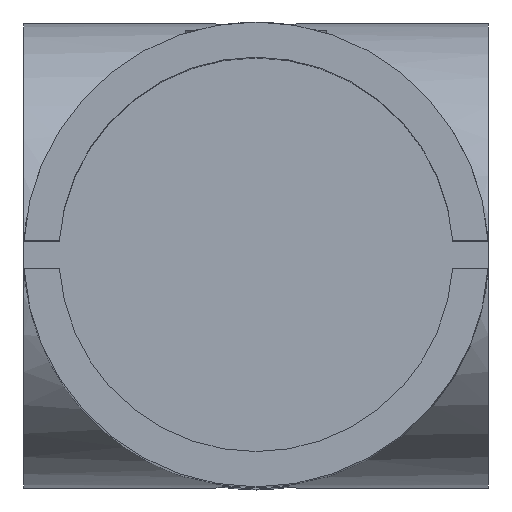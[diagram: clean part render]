
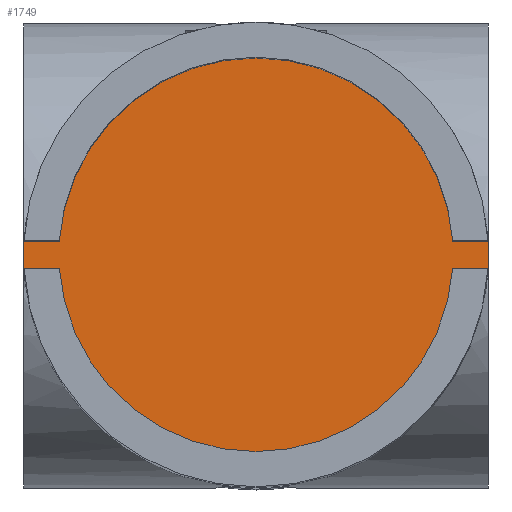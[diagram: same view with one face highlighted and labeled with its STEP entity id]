
A CAD part, top view. The second image highlights one B-rep face of the part: STEP entity #1749.
In plain terms, the highlighted planar face has unit normal (0, 0, 1).
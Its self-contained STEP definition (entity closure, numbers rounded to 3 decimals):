
#8 = ORIENTED_EDGE ( 'NONE', *, *, #2439, .F. ) ;
#12 = DIRECTION ( 'NONE',  ( 0., 0., -1. ) ) ;
#103 = VERTEX_POINT ( 'NONE', #760 ) ;
#280 = CIRCLE ( 'NONE', #2444, 16.5 ) ;
#323 = CARTESIAN_POINT ( 'NONE',  ( 0., 0., 35. ) ) ;
#336 = EDGE_CURVE ( 'NONE', #2262, #511, #901, .T. ) ;
#341 = CARTESIAN_POINT ( 'NONE',  ( 16.5, 0., 35. ) ) ;
#344 = FACE_OUTER_BOUND ( 'NONE', #2990, .T. ) ;
#349 = ORIENTED_EDGE ( 'NONE', *, *, #1281, .T. ) ;
#350 = AXIS2_PLACEMENT_3D ( 'NONE', #1061, #1553, #624 ) ;
#454 = CARTESIAN_POINT ( 'NONE',  ( 16.47, 1., 35. ) ) ;
#492 = CARTESIAN_POINT ( 'NONE',  ( 16.47, -1., 35. ) ) ;
#511 = VERTEX_POINT ( 'NONE', #454 ) ;
#548 = EDGE_CURVE ( 'NONE', #2919, #1095, #1885, .T. ) ;
#590 = CIRCLE ( 'NONE', #2722, 16.5 ) ;
#624 = DIRECTION ( 'NONE',  ( -1., 0., 0. ) ) ;
#627 = CIRCLE ( 'NONE', #783, 14. ) ;
#678 = CARTESIAN_POINT ( 'NONE',  ( -16.5, -1., 35. ) ) ;
#713 = DIRECTION ( 'NONE',  ( -1., 0., 0. ) ) ;
#747 = CARTESIAN_POINT ( 'NONE',  ( -16.5, 1., 35. ) ) ;
#760 = CARTESIAN_POINT ( 'NONE',  ( -16.47, 1., 35. ) ) ;
#778 = VERTEX_POINT ( 'NONE', #492 ) ;
#783 = AXIS2_PLACEMENT_3D ( 'NONE', #2120, #12, #1445 ) ;
#787 = EDGE_CURVE ( 'NONE', #103, #1457, #954, .T. ) ;
#901 = CIRCLE ( 'NONE', #350, 16.5 ) ;
#923 = DIRECTION ( 'NONE',  ( -1., 0., 0. ) ) ;
#954 = LINE ( 'NONE', #747, #2234 ) ;
#1060 = ORIENTED_EDGE ( 'NONE', *, *, #1180, .F. ) ;
#1061 = CARTESIAN_POINT ( 'NONE',  ( 0., 0., 35. ) ) ;
#1077 = EDGE_CURVE ( 'NONE', #103, #2097, #280, .T. ) ;
#1095 = VERTEX_POINT ( 'NONE', #1824 ) ;
#1109 = DIRECTION ( 'NONE',  ( -1., 0., 0. ) ) ;
#1117 = DIRECTION ( 'NONE',  ( -1., 0., 0. ) ) ;
#1143 = EDGE_CURVE ( 'NONE', #2124, #778, #1458, .T. ) ;
#1180 = EDGE_CURVE ( 'NONE', #1457, #2293, #627, .T. ) ;
#1190 = CARTESIAN_POINT ( 'NONE',  ( 13.964, -1., 35. ) ) ;
#1197 = CARTESIAN_POINT ( 'NONE',  ( 0., 0., 35. ) ) ;
#1254 = DIRECTION ( 'NONE',  ( 0., 0., 1. ) ) ;
#1281 = EDGE_CURVE ( 'NONE', #2097, #2919, #1508, .T. ) ;
#1303 = LINE ( 'NONE', #2703, #2041 ) ;
#1336 = CARTESIAN_POINT ( 'NONE',  ( -16.47, -1., 35. ) ) ;
#1338 = VECTOR ( 'NONE', #1938, 1000. ) ;
#1356 = PLANE ( 'NONE',  #2793 ) ;
#1361 = ORIENTED_EDGE ( 'NONE', *, *, #1077, .T. ) ;
#1412 = VECTOR ( 'NONE', #1413, 1000. ) ;
#1413 = DIRECTION ( 'NONE',  ( 1., 0., 0. ) ) ;
#1445 = DIRECTION ( 'NONE',  ( -1., 0., 0. ) ) ;
#1457 = VERTEX_POINT ( 'NONE', #2609 ) ;
#1458 = LINE ( 'NONE', #678, #1338 ) ;
#1464 = DIRECTION ( 'NONE',  ( 0., 0., -1. ) ) ;
#1508 = CIRCLE ( 'NONE', #2313, 16.5 ) ;
#1553 = DIRECTION ( 'NONE',  ( 0., 0., 1. ) ) ;
#1749 = ADVANCED_FACE ( 'NONE', ( #344 ), #1356, .T. ) ;
#1780 = ORIENTED_EDGE ( 'NONE', *, *, #2200, .F. ) ;
#1824 = CARTESIAN_POINT ( 'NONE',  ( -13.964, -1., 35. ) ) ;
#1885 = LINE ( 'NONE', #2874, #1412 ) ;
#1938 = DIRECTION ( 'NONE',  ( 1., 0., 0. ) ) ;
#1961 = ORIENTED_EDGE ( 'NONE', *, *, #336, .T. ) ;
#1967 = AXIS2_PLACEMENT_3D ( 'NONE', #3106, #1464, #923 ) ;
#2041 = VECTOR ( 'NONE', #2503, 1000. ) ;
#2097 = VERTEX_POINT ( 'NONE', #2337 ) ;
#2120 = CARTESIAN_POINT ( 'NONE',  ( 0., 0., 35. ) ) ;
#2124 = VERTEX_POINT ( 'NONE', #1190 ) ;
#2200 = EDGE_CURVE ( 'NONE', #2293, #511, #1303, .T. ) ;
#2214 = CIRCLE ( 'NONE', #1967, 14. ) ;
#2234 = VECTOR ( 'NONE', #3136, 1000. ) ;
#2262 = VERTEX_POINT ( 'NONE', #341 ) ;
#2293 = VERTEX_POINT ( 'NONE', #2818 ) ;
#2313 = AXIS2_PLACEMENT_3D ( 'NONE', #1197, #2893, #713 ) ;
#2337 = CARTESIAN_POINT ( 'NONE',  ( -16.5, 0., 35. ) ) ;
#2438 = ORIENTED_EDGE ( 'NONE', *, *, #2556, .T. ) ;
#2439 = EDGE_CURVE ( 'NONE', #2124, #1095, #2214, .T. ) ;
#2444 = AXIS2_PLACEMENT_3D ( 'NONE', #2543, #2829, #1109 ) ;
#2503 = DIRECTION ( 'NONE',  ( 1., 0., 0. ) ) ;
#2543 = CARTESIAN_POINT ( 'NONE',  ( 0., 0., 35. ) ) ;
#2556 = EDGE_CURVE ( 'NONE', #778, #2262, #590, .T. ) ;
#2609 = CARTESIAN_POINT ( 'NONE',  ( -13.964, 1., 35. ) ) ;
#2626 = ORIENTED_EDGE ( 'NONE', *, *, #1143, .T. ) ;
#2683 = DIRECTION ( 'NONE',  ( -1., 0., 0. ) ) ;
#2703 = CARTESIAN_POINT ( 'NONE',  ( -16.5, 1., 35. ) ) ;
#2722 = AXIS2_PLACEMENT_3D ( 'NONE', #323, #1254, #2683 ) ;
#2793 = AXIS2_PLACEMENT_3D ( 'NONE', #3018, #3066, #1117 ) ;
#2818 = CARTESIAN_POINT ( 'NONE',  ( 13.964, 1., 35. ) ) ;
#2829 = DIRECTION ( 'NONE',  ( 0., 0., 1. ) ) ;
#2874 = CARTESIAN_POINT ( 'NONE',  ( -16.5, -1., 35. ) ) ;
#2893 = DIRECTION ( 'NONE',  ( 0., 0., 1. ) ) ;
#2919 = VERTEX_POINT ( 'NONE', #1336 ) ;
#2990 = EDGE_LOOP ( 'NONE', ( #8, #2626, #2438, #1961, #1780, #1060, #3044, #1361, #349, #3071 ) ) ;
#3018 = CARTESIAN_POINT ( 'NONE',  ( 0., 0., 35. ) ) ;
#3044 = ORIENTED_EDGE ( 'NONE', *, *, #787, .F. ) ;
#3066 = DIRECTION ( 'NONE',  ( 0., 0., 1. ) ) ;
#3071 = ORIENTED_EDGE ( 'NONE', *, *, #548, .T. ) ;
#3106 = CARTESIAN_POINT ( 'NONE',  ( 0., 0., 35. ) ) ;
#3136 = DIRECTION ( 'NONE',  ( 1., 0., 0. ) ) ;
